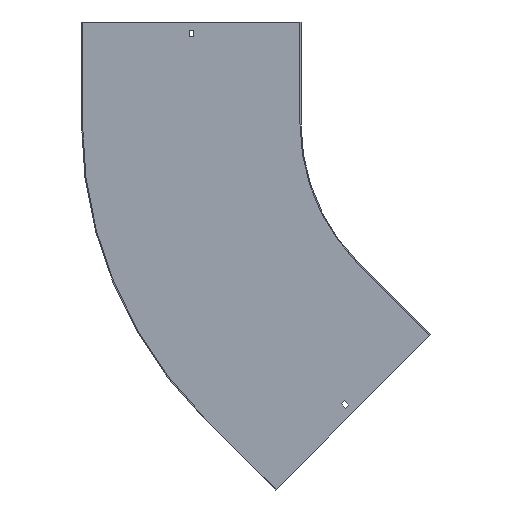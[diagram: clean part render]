
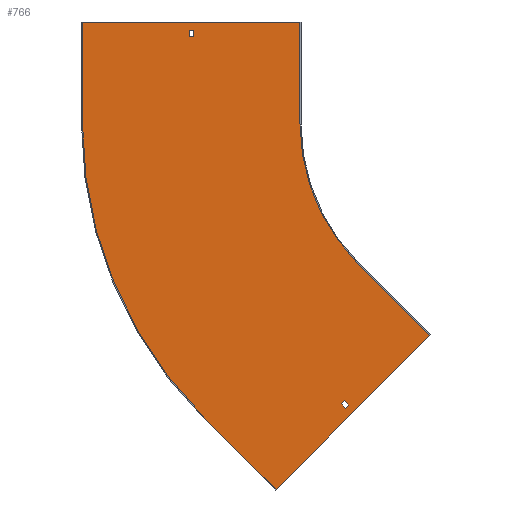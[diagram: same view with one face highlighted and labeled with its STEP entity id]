
A CAD part, front view. The second image highlights one B-rep face of the part: STEP entity #766.
In plain terms, the highlighted planar face has unit normal (0, -1, 0).
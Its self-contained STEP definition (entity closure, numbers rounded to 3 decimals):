
#3 = CARTESIAN_POINT ( 'NONE',  ( -446.75, -1.5, 129. ) ) ;
#8 = DIRECTION ( 'NONE',  ( 0., 0., -1. ) ) ;
#12 = CARTESIAN_POINT ( 'NONE',  ( -320.496, -1.5, -320.496 ) ) ;
#25 = CARTESIAN_POINT ( 'NONE',  ( -98.995, -1.5, -311.127 ) ) ;
#27 = VECTOR ( 'NONE', #210, 1000. ) ;
#28 = ORIENTED_EDGE ( 'NONE', *, *, #97, .F. ) ;
#36 = CARTESIAN_POINT ( 'NONE',  ( -610., -1.5, 0. ) ) ;
#38 = CIRCLE ( 'NONE', #342, 290. ) ;
#55 = VERTEX_POINT ( 'NONE', #178 ) ;
#60 = VERTEX_POINT ( 'NONE', #455 ) ;
#61 = DIRECTION ( 'NONE',  ( 0., 0., -1. ) ) ;
#64 = CARTESIAN_POINT ( 'NONE',  ( -325.269, -1.5, -537.401 ) ) ;
#73 = ORIENTED_EDGE ( 'NONE', *, *, #133, .F. ) ;
#74 = LINE ( 'NONE', #269, #714 ) ;
#76 = DIRECTION ( 'NONE',  ( 0.707, 0., -0.707 ) ) ;
#86 = CARTESIAN_POINT ( 'NONE',  ( -446.75, -1.5, 0. ) ) ;
#97 = EDGE_CURVE ( 'NONE', #444, #850, #130, .T. ) ;
#99 = ORIENTED_EDGE ( 'NONE', *, *, #213, .T. ) ;
#119 = CARTESIAN_POINT ( 'NONE',  ( 0., -1.5, 0. ) ) ;
#121 = EDGE_CURVE ( 'NONE', #480, #348, #185, .T. ) ;
#124 = CARTESIAN_POINT ( 'NONE',  ( 0., -1.5, 0. ) ) ;
#127 = DIRECTION ( 'NONE',  ( 0.707, 0., -0.707 ) ) ;
#128 = VERTEX_POINT ( 'NONE', #655 ) ;
#130 = LINE ( 'NONE', #134, #506 ) ;
#133 = EDGE_CURVE ( 'NONE', #55, #637, #271, .T. ) ;
#134 = CARTESIAN_POINT ( 'NONE',  ( 91.217, -1.5, -91.217 ) ) ;
#136 = LINE ( 'NONE', #614, #27 ) ;
#137 = VECTOR ( 'NONE', #76, 1000. ) ;
#140 = DIRECTION ( 'NONE',  ( 0., 0., 1. ) ) ;
#152 = CARTESIAN_POINT ( 'NONE',  ( -431.335, -1.5, -431.335 ) ) ;
#154 = LINE ( 'NONE', #12, #137 ) ;
#157 = CARTESIAN_POINT ( 'NONE',  ( -315.9, -1.5, -315.9 ) ) ;
#159 = CARTESIAN_POINT ( 'NONE',  ( -446.75, -1.5, 138. ) ) ;
#178 = CARTESIAN_POINT ( 'NONE',  ( -205.061, -1.5, -205.061 ) ) ;
#185 = LINE ( 'NONE', #391, #802 ) ;
#198 = VECTOR ( 'NONE', #363, 1000. ) ;
#210 = DIRECTION ( 'NONE',  ( -1., 0., 0. ) ) ;
#213 = EDGE_CURVE ( 'NONE', #626, #60, #414, .T. ) ;
#227 = VECTOR ( 'NONE', #718, 1000. ) ;
#253 = EDGE_CURVE ( 'NONE', #850, #513, #154, .T. ) ;
#263 = DIRECTION ( 'NONE',  ( 0., -1., 0. ) ) ;
#266 = CARTESIAN_POINT ( 'NONE',  ( 0., -1.5, 0. ) ) ;
#269 = CARTESIAN_POINT ( 'NONE',  ( 97.581, -1.5, -97.581 ) ) ;
#271 = LINE ( 'NONE', #536, #564 ) ;
#274 = VECTOR ( 'NONE', #771, 1000. ) ;
#279 = CARTESIAN_POINT ( 'NONE',  ( -218.319, -1.5, -413.481 ) ) ;
#294 = ORIENTED_EDGE ( 'NONE', *, *, #547, .F. ) ;
#301 = CARTESIAN_POINT ( 'NONE',  ( -290., -1.5, 150. ) ) ;
#304 = VERTEX_POINT ( 'NONE', #159 ) ;
#305 = CARTESIAN_POINT ( 'NONE',  ( -453.25, -1.5, 129. ) ) ;
#309 = ORIENTED_EDGE ( 'NONE', *, *, #641, .F. ) ;
#334 = PLANE ( 'NONE',  #507 ) ;
#337 = DIRECTION ( 'NONE',  ( 0.707, 0., 0.707 ) ) ;
#342 = AXIS2_PLACEMENT_3D ( 'NONE', #124, #529, #8 ) ;
#348 = VERTEX_POINT ( 'NONE', #687 ) ;
#356 = EDGE_LOOP ( 'NONE', ( #712, #703, #476, #99 ) ) ;
#363 = DIRECTION ( 'NONE',  ( -0.707, 0., -0.707 ) ) ;
#365 = DIRECTION ( 'NONE',  ( 0., 0., -1. ) ) ;
#370 = ORIENTED_EDGE ( 'NONE', *, *, #498, .F. ) ;
#391 = CARTESIAN_POINT ( 'NONE',  ( -611.5, -1.5, 150. ) ) ;
#397 = EDGE_CURVE ( 'NONE', #60, #304, #582, .T. ) ;
#405 = DIRECTION ( 'NONE',  ( 0., 0., -1. ) ) ;
#414 = LINE ( 'NONE', #679, #839 ) ;
#433 = ORIENTED_EDGE ( 'NONE', *, *, #612, .F. ) ;
#434 = LINE ( 'NONE', #157, #274 ) ;
#441 = FACE_BOUND ( 'NONE', #356, .T. ) ;
#444 = VERTEX_POINT ( 'NONE', #786 ) ;
#449 = CARTESIAN_POINT ( 'NONE',  ( -610., -1.5, 0. ) ) ;
#451 = CARTESIAN_POINT ( 'NONE',  ( -610., -1.5, 150. ) ) ;
#454 = VECTOR ( 'NONE', #671, 1000. ) ;
#455 = CARTESIAN_POINT ( 'NONE',  ( -453.25, -1.5, 138. ) ) ;
#460 = VERTEX_POINT ( 'NONE', #36 ) ;
#472 = DIRECTION ( 'NONE',  ( 1., 0., 0. ) ) ;
#476 = ORIENTED_EDGE ( 'NONE', *, *, #590, .T. ) ;
#480 = VERTEX_POINT ( 'NONE', #451 ) ;
#494 = VECTOR ( 'NONE', #652, 1000. ) ;
#498 = EDGE_CURVE ( 'NONE', #513, #561, #74, .T. ) ;
#506 = VECTOR ( 'NONE', #790, 1000. ) ;
#507 = AXIS2_PLACEMENT_3D ( 'NONE', #119, #263, #405 ) ;
#512 = EDGE_CURVE ( 'NONE', #616, #460, #788, .T. ) ;
#513 = VERTEX_POINT ( 'NONE', #605 ) ;
#516 = VERTEX_POINT ( 'NONE', #3 ) ;
#529 = DIRECTION ( 'NONE',  ( 0., -1., 0. ) ) ;
#536 = CARTESIAN_POINT ( 'NONE',  ( -205.061, -1.5, -205.061 ) ) ;
#538 = LINE ( 'NONE', #64, #454 ) ;
#541 = EDGE_CURVE ( 'NONE', #128, #55, #38, .T. ) ;
#547 = EDGE_CURVE ( 'NONE', #836, #616, #538, .T. ) ;
#561 = VERTEX_POINT ( 'NONE', #279 ) ;
#564 = VECTOR ( 'NONE', #127, 1000. ) ;
#567 = CARTESIAN_POINT ( 'NONE',  ( -97.934, -1.5, -310.066 ) ) ;
#571 = EDGE_LOOP ( 'NONE', ( #632, #638, #739, #294, #717, #73, #601, #433 ) ) ;
#572 = LINE ( 'NONE', #449, #494 ) ;
#582 = LINE ( 'NONE', #654, #227 ) ;
#590 = EDGE_CURVE ( 'NONE', #516, #626, #136, .T. ) ;
#599 = FACE_OUTER_BOUND ( 'NONE', #571, .T. ) ;
#601 = ORIENTED_EDGE ( 'NONE', *, *, #541, .F. ) ;
#605 = CARTESIAN_POINT ( 'NONE',  ( -222.915, -1.5, -418.077 ) ) ;
#606 = EDGE_CURVE ( 'NONE', #304, #516, #863, .T. ) ;
#607 = VECTOR ( 'NONE', #769, 1000. ) ;
#612 = EDGE_CURVE ( 'NONE', #348, #128, #630, .T. ) ;
#614 = CARTESIAN_POINT ( 'NONE',  ( 0., -1.5, 129. ) ) ;
#616 = VERTEX_POINT ( 'NONE', #152 ) ;
#626 = VERTEX_POINT ( 'NONE', #305 ) ;
#630 = LINE ( 'NONE', #301, #803 ) ;
#632 = ORIENTED_EDGE ( 'NONE', *, *, #121, .F. ) ;
#637 = VERTEX_POINT ( 'NONE', #25 ) ;
#638 = ORIENTED_EDGE ( 'NONE', *, *, #743, .F. ) ;
#641 = EDGE_CURVE ( 'NONE', #561, #444, #434, .T. ) ;
#652 = DIRECTION ( 'NONE',  ( 0., 0., 1. ) ) ;
#654 = CARTESIAN_POINT ( 'NONE',  ( 0., -1.5, 138. ) ) ;
#655 = CARTESIAN_POINT ( 'NONE',  ( -290., -1.5, 0. ) ) ;
#659 = AXIS2_PLACEMENT_3D ( 'NONE', #266, #681, #61 ) ;
#671 = DIRECTION ( 'NONE',  ( -0.707, 0., 0.707 ) ) ;
#679 = CARTESIAN_POINT ( 'NONE',  ( -453.25, -1.5, 0. ) ) ;
#681 = DIRECTION ( 'NONE',  ( 0., 1., 0. ) ) ;
#687 = CARTESIAN_POINT ( 'NONE',  ( -290., -1.5, 150. ) ) ;
#694 = LINE ( 'NONE', #567, #198 ) ;
#696 = CARTESIAN_POINT ( 'NONE',  ( -325.269, -1.5, -537.401 ) ) ;
#703 = ORIENTED_EDGE ( 'NONE', *, *, #606, .T. ) ;
#705 = EDGE_CURVE ( 'NONE', #637, #836, #694, .T. ) ;
#712 = ORIENTED_EDGE ( 'NONE', *, *, #397, .T. ) ;
#714 = VECTOR ( 'NONE', #337, 1000. ) ;
#717 = ORIENTED_EDGE ( 'NONE', *, *, #705, .F. ) ;
#718 = DIRECTION ( 'NONE',  ( 1., 0., 0. ) ) ;
#732 = FACE_BOUND ( 'NONE', #782, .T. ) ;
#739 = ORIENTED_EDGE ( 'NONE', *, *, #512, .F. ) ;
#743 = EDGE_CURVE ( 'NONE', #460, #480, #572, .T. ) ;
#744 = CARTESIAN_POINT ( 'NONE',  ( -229.279, -1.5, -411.713 ) ) ;
#766 = ADVANCED_FACE ( 'NONE', ( #732, #599, #441 ), #334, .T. ) ;
#769 = DIRECTION ( 'NONE',  ( 0., 0., -1. ) ) ;
#771 = DIRECTION ( 'NONE',  ( -0.707, 0., 0.707 ) ) ;
#782 = EDGE_LOOP ( 'NONE', ( #309, #370, #796, #28 ) ) ;
#786 = CARTESIAN_POINT ( 'NONE',  ( -224.683, -1.5, -407.117 ) ) ;
#788 = CIRCLE ( 'NONE', #659, 610. ) ;
#790 = DIRECTION ( 'NONE',  ( -0.707, 0., -0.707 ) ) ;
#796 = ORIENTED_EDGE ( 'NONE', *, *, #253, .F. ) ;
#802 = VECTOR ( 'NONE', #472, 1000. ) ;
#803 = VECTOR ( 'NONE', #365, 1000. ) ;
#836 = VERTEX_POINT ( 'NONE', #696 ) ;
#839 = VECTOR ( 'NONE', #140, 1000. ) ;
#850 = VERTEX_POINT ( 'NONE', #744 ) ;
#863 = LINE ( 'NONE', #86, #607 ) ;
